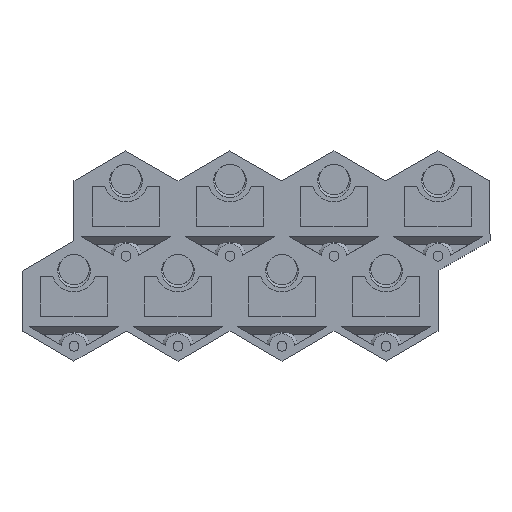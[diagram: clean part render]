
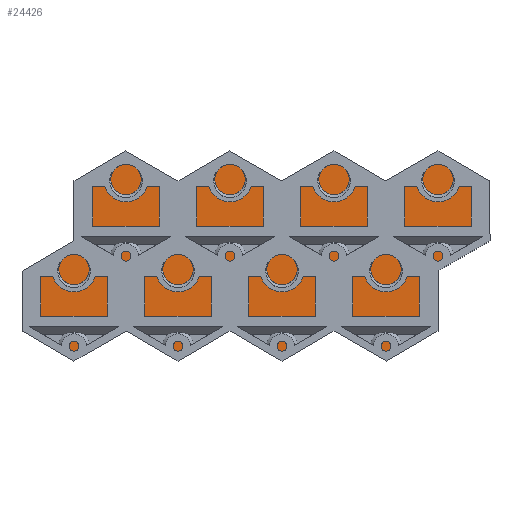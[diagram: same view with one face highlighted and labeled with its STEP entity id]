
A CAD part, left-side view. The second image highlights one B-rep face of the part: STEP entity #24426.
In plain terms, the highlighted planar face has unit normal (-1, 0, 0).
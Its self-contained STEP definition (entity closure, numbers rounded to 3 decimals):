
#700=PLANE('',#25897);
#1769=FACE_OUTER_BOUND('',#3166,.T.);
#3166=EDGE_LOOP('',(#18817,#18818,#18819,#18820,#18821,#18822,#18823,#18824,
#18825,#18826,#18827,#18828,#18829,#18830,#18831,#18832,#18833,#18834,#18835,
#18836,#18837,#18838));
#5939=LINE('',#45208,#8582);
#5943=LINE('',#45216,#8586);
#5946=LINE('',#45222,#8589);
#5949=LINE('',#45228,#8592);
#5952=LINE('',#45234,#8595);
#5955=LINE('',#45240,#8598);
#5958=LINE('',#45246,#8601);
#5961=LINE('',#45252,#8604);
#5964=LINE('',#45258,#8607);
#5967=LINE('',#45264,#8610);
#5970=LINE('',#45270,#8613);
#5973=LINE('',#45276,#8616);
#5977=LINE('',#45284,#8620);
#5980=LINE('',#45290,#8623);
#5983=LINE('',#45296,#8626);
#5986=LINE('',#45302,#8629);
#5989=LINE('',#45308,#8632);
#5992=LINE('',#45314,#8635);
#5995=LINE('',#45320,#8638);
#5998=LINE('',#45326,#8641);
#6001=LINE('',#45332,#8644);
#6004=LINE('',#45336,#8647);
#8582=VECTOR('',#28936,10.);
#8586=VECTOR('',#28942,10.);
#8589=VECTOR('',#28947,10.);
#8592=VECTOR('',#28952,10.);
#8595=VECTOR('',#28957,10.);
#8598=VECTOR('',#28962,10.);
#8601=VECTOR('',#28967,10.);
#8604=VECTOR('',#28972,10.);
#8607=VECTOR('',#28977,10.);
#8610=VECTOR('',#28982,10.);
#8613=VECTOR('',#28987,10.);
#8616=VECTOR('',#28992,10.);
#8620=VECTOR('',#28998,10.);
#8623=VECTOR('',#29003,10.);
#8626=VECTOR('',#29008,10.);
#8629=VECTOR('',#29013,10.);
#8632=VECTOR('',#29018,10.);
#8635=VECTOR('',#29023,10.);
#8638=VECTOR('',#29028,10.);
#8641=VECTOR('',#29033,10.);
#8644=VECTOR('',#29038,10.);
#8647=VECTOR('',#29043,10.);
#11140=VERTEX_POINT('',#45206);
#11141=VERTEX_POINT('',#45207);
#11144=VERTEX_POINT('',#45215);
#11146=VERTEX_POINT('',#45221);
#11148=VERTEX_POINT('',#45227);
#11150=VERTEX_POINT('',#45233);
#11152=VERTEX_POINT('',#45239);
#11154=VERTEX_POINT('',#45245);
#11156=VERTEX_POINT('',#45251);
#11158=VERTEX_POINT('',#45257);
#11160=VERTEX_POINT('',#45263);
#11162=VERTEX_POINT('',#45269);
#11164=VERTEX_POINT('',#45275);
#11167=VERTEX_POINT('',#45283);
#11169=VERTEX_POINT('',#45289);
#11171=VERTEX_POINT('',#45295);
#11173=VERTEX_POINT('',#45301);
#11175=VERTEX_POINT('',#45307);
#11177=VERTEX_POINT('',#45313);
#11179=VERTEX_POINT('',#45319);
#11181=VERTEX_POINT('',#45325);
#11183=VERTEX_POINT('',#45331);
#13905=EDGE_CURVE('',#11140,#11141,#5939,.T.);
#13909=EDGE_CURVE('',#11141,#11144,#5943,.T.);
#13912=EDGE_CURVE('',#11144,#11146,#5946,.T.);
#13915=EDGE_CURVE('',#11146,#11148,#5949,.T.);
#13918=EDGE_CURVE('',#11148,#11150,#5952,.T.);
#13921=EDGE_CURVE('',#11150,#11152,#5955,.T.);
#13924=EDGE_CURVE('',#11152,#11154,#5958,.T.);
#13927=EDGE_CURVE('',#11154,#11156,#5961,.T.);
#13930=EDGE_CURVE('',#11156,#11158,#5964,.T.);
#13933=EDGE_CURVE('',#11158,#11160,#5967,.T.);
#13936=EDGE_CURVE('',#11160,#11162,#5970,.T.);
#13939=EDGE_CURVE('',#11162,#11164,#5973,.T.);
#13943=EDGE_CURVE('',#11164,#11167,#5977,.T.);
#13946=EDGE_CURVE('',#11167,#11169,#5980,.T.);
#13949=EDGE_CURVE('',#11169,#11171,#5983,.T.);
#13952=EDGE_CURVE('',#11171,#11173,#5986,.T.);
#13955=EDGE_CURVE('',#11173,#11175,#5989,.T.);
#13958=EDGE_CURVE('',#11175,#11177,#5992,.T.);
#13961=EDGE_CURVE('',#11177,#11179,#5995,.T.);
#13964=EDGE_CURVE('',#11179,#11181,#5998,.T.);
#13967=EDGE_CURVE('',#11181,#11183,#6001,.T.);
#13970=EDGE_CURVE('',#11183,#11140,#6004,.T.);
#18817=ORIENTED_EDGE('',*,*,#13905,.F.);
#18818=ORIENTED_EDGE('',*,*,#13970,.F.);
#18819=ORIENTED_EDGE('',*,*,#13967,.F.);
#18820=ORIENTED_EDGE('',*,*,#13964,.F.);
#18821=ORIENTED_EDGE('',*,*,#13961,.F.);
#18822=ORIENTED_EDGE('',*,*,#13958,.F.);
#18823=ORIENTED_EDGE('',*,*,#13955,.F.);
#18824=ORIENTED_EDGE('',*,*,#13952,.F.);
#18825=ORIENTED_EDGE('',*,*,#13949,.F.);
#18826=ORIENTED_EDGE('',*,*,#13946,.F.);
#18827=ORIENTED_EDGE('',*,*,#13943,.F.);
#18828=ORIENTED_EDGE('',*,*,#13939,.F.);
#18829=ORIENTED_EDGE('',*,*,#13936,.F.);
#18830=ORIENTED_EDGE('',*,*,#13933,.F.);
#18831=ORIENTED_EDGE('',*,*,#13930,.F.);
#18832=ORIENTED_EDGE('',*,*,#13927,.F.);
#18833=ORIENTED_EDGE('',*,*,#13924,.F.);
#18834=ORIENTED_EDGE('',*,*,#13921,.F.);
#18835=ORIENTED_EDGE('',*,*,#13918,.F.);
#18836=ORIENTED_EDGE('',*,*,#13915,.F.);
#18837=ORIENTED_EDGE('',*,*,#13912,.F.);
#18838=ORIENTED_EDGE('',*,*,#13909,.F.);
#24426=ADVANCED_FACE('',(#1769),#700,.T.);
#25897=AXIS2_PLACEMENT_3D('',#45337,#29044,#29045);
#28936=DIRECTION('',(0.,0.866,-0.5));
#28942=DIRECTION('',(0.,0.866,0.5));
#28947=DIRECTION('',(0.,0.866,-0.5));
#28952=DIRECTION('',(0.,0.866,0.5));
#28957=DIRECTION('',(0.,0.866,-0.5));
#28962=DIRECTION('',(0.,0.866,0.5));
#28967=DIRECTION('',(0.,0.,1.));
#28972=DIRECTION('',(0.,-0.866,0.5));
#28977=DIRECTION('',(0.,0.,1.));
#28982=DIRECTION('',(0.,-0.866,0.5));
#28987=DIRECTION('',(0.,-0.866,-0.5));
#28992=DIRECTION('',(0.,-0.866,0.5));
#28998=DIRECTION('',(0.,-0.866,-0.5));
#29003=DIRECTION('',(0.,-0.866,0.5));
#29008=DIRECTION('',(0.,-0.866,-0.5));
#29013=DIRECTION('',(0.,-0.866,0.5));
#29018=DIRECTION('',(0.,-0.866,-0.5));
#29023=DIRECTION('',(0.,0.,-1.));
#29028=DIRECTION('',(0.,0.866,-0.5));
#29033=DIRECTION('',(0.,0.,-1.));
#29038=DIRECTION('',(0.,0.866,-0.5));
#29043=DIRECTION('',(0.,0.866,0.5));
#29044=DIRECTION('center_axis',(-1.,0.,0.));
#29045=DIRECTION('ref_axis',(0.,0.,1.));
#45206=CARTESIAN_POINT('',(0.,0.,24.711));
#45207=CARTESIAN_POINT('',(0.,21.,12.586));
#45208=CARTESIAN_POINT('',(0.,15.95,15.502));
#45215=CARTESIAN_POINT('',(0.,42.,24.711));
#45216=CARTESIAN_POINT('',(0.,44.425,26.111));
#45221=CARTESIAN_POINT('',(0.,63.,12.586));
#45222=CARTESIAN_POINT('',(0.,42.2,24.595));
#45227=CARTESIAN_POINT('',(0.,84.,24.711));
#45228=CARTESIAN_POINT('',(0.,70.675,17.017));
#45233=CARTESIAN_POINT('',(0.,105.,12.586));
#45234=CARTESIAN_POINT('',(0.,68.45,33.688));
#45239=CARTESIAN_POINT('',(0.,125.6,24.48));
#45240=CARTESIAN_POINT('',(0.,96.925,7.924));
#45245=CARTESIAN_POINT('',(0.,125.6,48.266));
#45246=CARTESIAN_POINT('',(0.,125.6,51.528));
#45251=CARTESIAN_POINT('',(0.,104.6,60.391));
#45252=CARTESIAN_POINT('',(0.,78.55,75.431));
#45257=CARTESIAN_POINT('',(0.,104.6,84.639));
#45258=CARTESIAN_POINT('',(0.,104.6,69.715));
#45263=CARTESIAN_POINT('',(0.,84.,96.533));
#45264=CARTESIAN_POINT('',(0.,73.3,102.711));
#45269=CARTESIAN_POINT('',(0.,63.,84.409));
#45270=CARTESIAN_POINT('',(0.,44.825,73.915));
#45275=CARTESIAN_POINT('',(0.,42.,96.533));
#45276=CARTESIAN_POINT('',(0.,47.05,93.617));
#45283=CARTESIAN_POINT('',(0.,21.,84.409));
#45284=CARTESIAN_POINT('',(0.,18.575,83.008));
#45289=CARTESIAN_POINT('',(0.,0.,96.533));
#45290=CARTESIAN_POINT('',(0.,20.8,84.524));
#45295=CARTESIAN_POINT('',(0.,-21.,84.409));
#45296=CARTESIAN_POINT('',(0.,-7.675,92.102));
#45301=CARTESIAN_POINT('',(0.,-42.,96.533));
#45302=CARTESIAN_POINT('',(0.,-5.45,75.431));
#45307=CARTESIAN_POINT('',(0.,-62.6,84.639));
#45308=CARTESIAN_POINT('',(0.,-33.925,101.195));
#45313=CARTESIAN_POINT('',(0.,-62.6,60.853));
#45314=CARTESIAN_POINT('',(0.,-62.6,57.591));
#45319=CARTESIAN_POINT('',(0.,-41.6,48.728));
#45320=CARTESIAN_POINT('',(0.,-15.55,33.688));
#45325=CARTESIAN_POINT('',(0.,-41.6,24.48));
#45326=CARTESIAN_POINT('',(0.,-41.6,39.404));
#45331=CARTESIAN_POINT('',(0.,-21.,12.586));
#45332=CARTESIAN_POINT('',(0.,-10.3,6.409));
#45336=CARTESIAN_POINT('',(0.,18.175,35.204));
#45337=CARTESIAN_POINT('Origin',(0.,31.5,54.56));
